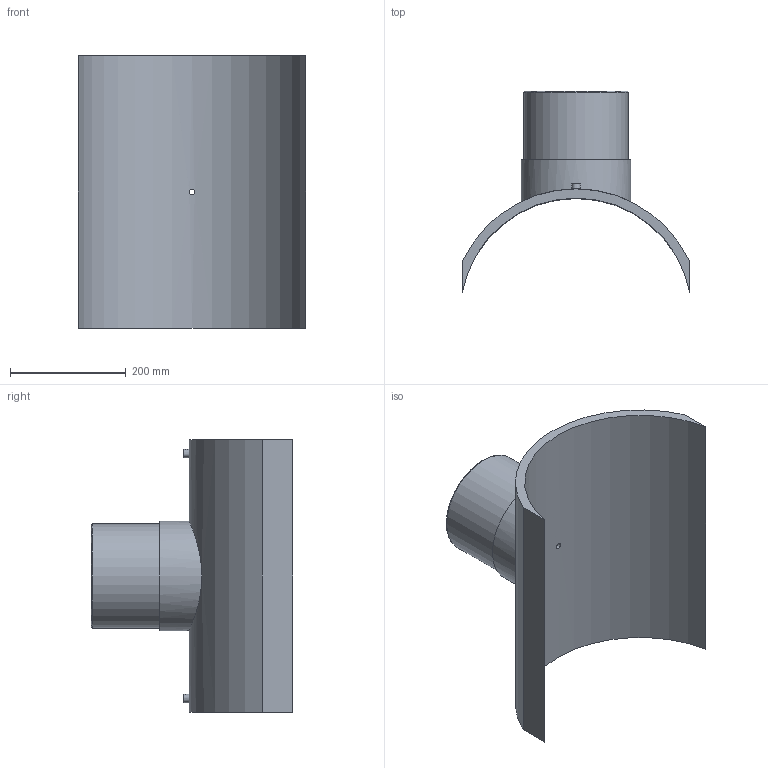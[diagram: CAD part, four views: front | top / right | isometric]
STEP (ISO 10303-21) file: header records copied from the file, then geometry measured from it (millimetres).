
FILE_DESCRIPTION(/* description */ ('PLASSON BRANCH SADDLE 400x180'),/* implementation_level */ '2;1');
FILE_NAME(/* name */ 'C:\Dropbox\KIMPROJECTS-Inventor 2019\99-16-3568-Processing\ElectroFusion Fittings\495803\stp\495803400180T.stp',/* time_stamp */ '2024-04-04T11:50:22+02:00',/* author */ ('KIM'),/* organization */ (''),/* preprocessor_version */ 'ST-DEVELOPER v17.2',/* originating_system */ 'Autodesk Inventor 2019',/* authorisation */ '');
FILE_SCHEMA (('AUTOMOTIVE_DESIGN { 1 0 10303 214 3 1 1 }'));
Length unit declared in the file: millimetre
Products named in the file (1): 495803400180T
Bounding box: 393 x 347.75 x 470 mm (x, y, z)
Volume: 5679356.6 mm3; surface area: 748287 mm2
Topology: 1 solids, 1 shells, 29 faces, 60 edges, 43 vertices
Faces by surface type: plane 13, cylinder 12, torus 2, cone 2
Full cylindrical faces by diameter (mm): 4 x2, 9.6 x1, 10 x2, 16 x1, 144 x1, 180 x1, 189 x1
Entity records: 1086 total; most frequent: CARTESIAN_POINT 400, DIRECTION 139, ORIENTED_EDGE 120, EDGE_CURVE 60, AXIS2_PLACEMENT_3D 60, VERTEX_POINT 43, EDGE_LOOP 41, CIRCLE 30
